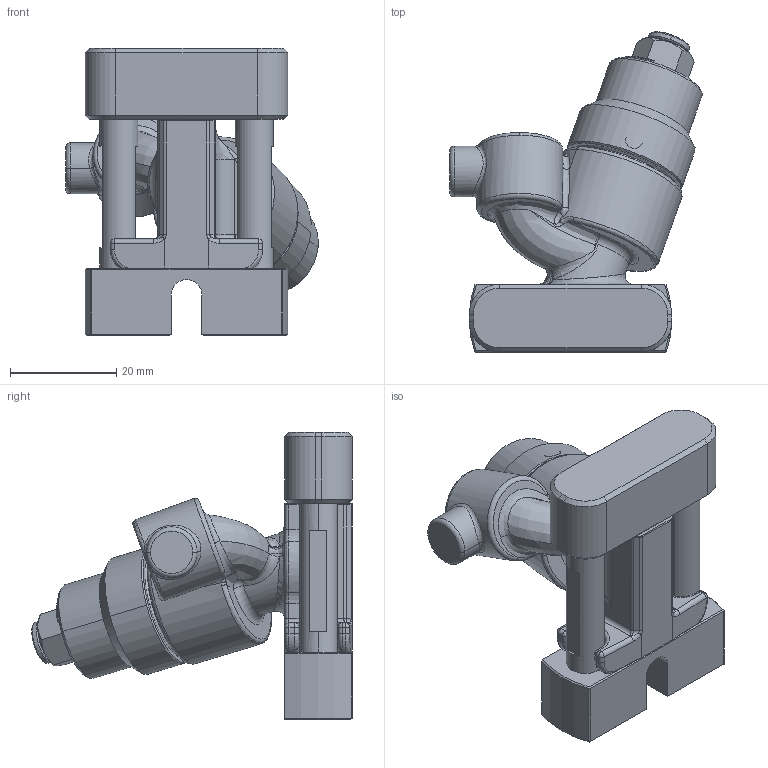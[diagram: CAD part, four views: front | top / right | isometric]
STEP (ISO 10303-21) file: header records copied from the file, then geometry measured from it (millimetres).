
FILE_DESCRIPTION((''),'2;1');
FILE_NAME('FXCC0001C-EN-C_PRT','2022-06-21T15:06:35',('qufmd1'),(''),'CREO PARAMETRIC BY PTC INC, 2021072','CREO PARAMETRIC BY PTC INC, 2021072','');
FILE_SCHEMA(('CONFIG_CONTROL_DESIGN'));
Length unit declared in the file: inch
Products named in the file (1): FXCC0001C-EN-C_PRT
Bounding box: 47.4 x 60.21 x 53.98 mm (x, y, z)
Surface area: 14786.3 mm2 (no closed solid volume)
Topology: 0 solids, 13 shells, 296 faces, 728 edges, 436 vertices
Faces by surface type: cylinder 83, plane 80, bspline 59, cone 34, torus 24, sphere 14, extrusion 2
Entity records: 12592 total; most frequent: CARTESIAN_POINT 6035, ORIENTED_EDGE 1371, DIRECTION 1313, EDGE_CURVE 728, AXIS2_PLACEMENT_3D 517, VERTEX_POINT 436, EDGE_LOOP 296, FACE_OUTER_BOUND 296
